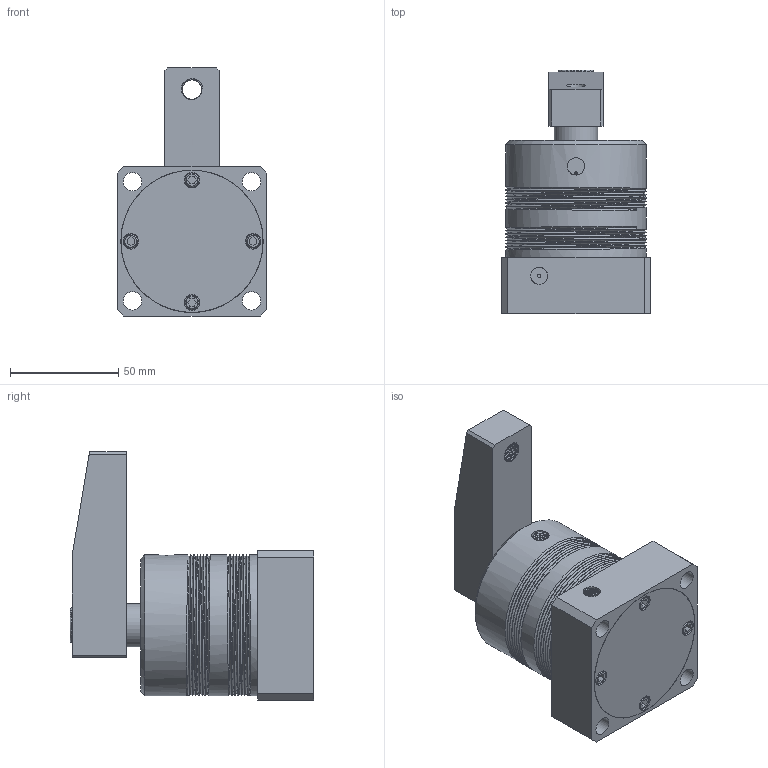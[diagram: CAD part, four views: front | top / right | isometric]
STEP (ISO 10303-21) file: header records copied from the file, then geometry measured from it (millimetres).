
FILE_DESCRIPTION(/* description */ (''),/* implementation_level */ '2;1');
FILE_NAME(/* name */ 'D:\Vault_2016\Projekty\STRONA\Pneumatic\Line ; Pipe connecct - type\cas-50s_asm\CAS-50SL_ZAMKNIETY.stp',/* time_stamp */ '2019-01-17T12:28:06+01:00',/* author */ ('user'),/* organization */ (''),/* preprocessor_version */ 'ST-DEVELOPER v17.2',/* originating_system */ 'Autodesk Inventor 2019',/* authorisation */ '');
FILE_SCHEMA (('AUTOMOTIVE_DESIGN { 1 0 10303 214 3 1 1 }'));
Length unit declared in the file: millimetre
Products named in the file (7): CAS-50SL_ZAMKNIETY; CAS-50BT; CAS-50SHSG; CAS-50HG; M4; CAS-50SYB; M10LC
Assembly tree (9 placements, depth 2):
  CAS-50SL_ZAMKNIETY
    CAS-50BT
    CAS-50SHSG
    CAS-50HG
    M4  x4
    CAS-50SYB
    M10LC
Bounding box: 69 x 112.5 x 114.5 mm (x, y, z)
Volume: 287268.7 mm3; surface area: 84135.3 mm2
Topology: 9 solids, 9 shells, 404 faces, 1126 edges, 766 vertices
Faces by surface type: cylinder 179, plane 107, bspline 85, cone 26, torus 7
Full cylindrical faces by diameter (mm): 0.96 x1, 1.5 x1, 3.2 x4, 4 x78, 4.5 x4, 6.5 x4, 7.2 x4, 8 x11, 8.5 x5, 9 x17, 10 x14, 11 x1, 12 x3, 16 x2, 17 x1, 20 x2, 45 x1, 50 x4, 65 x13, 65.7 x2
Entity records: 31689 total; most frequent: CARTESIAN_POINT 25291, ORIENTED_EDGE 1406, DIRECTION 1036, EDGE_CURVE 703, VERTEX_POINT 484, AXIS2_PLACEMENT_3D 386, EDGE_LOOP 313, B_SPLINE_CURVE_WITH_KNOTS 278
